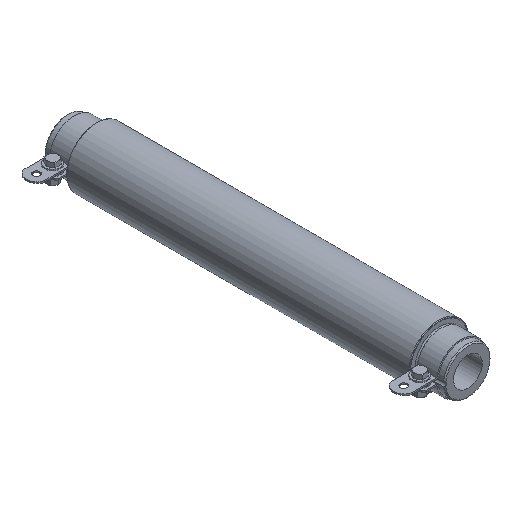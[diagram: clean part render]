
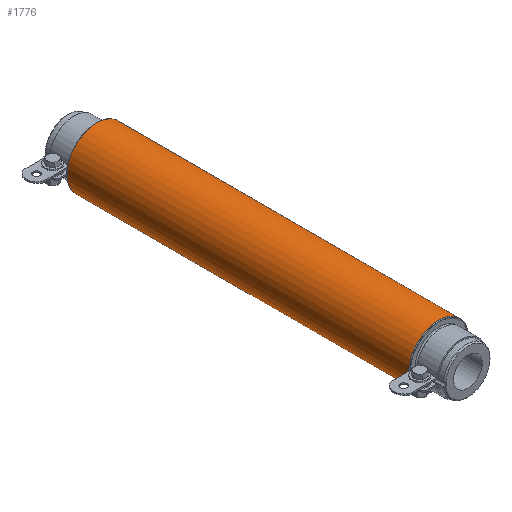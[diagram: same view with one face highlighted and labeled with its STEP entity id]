
A CAD part, isometric view. The second image highlights one B-rep face of the part: STEP entity #1776.
In plain terms, the highlighted cylindrical face has radius 27 mm (diameter 54 mm), a full revolution.
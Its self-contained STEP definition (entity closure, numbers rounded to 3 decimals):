
#697=ORIENTED_EDGE('',*,*,#887,.T.);
#698=ORIENTED_EDGE('',*,*,#888,.T.);
#887=EDGE_CURVE('',#1012,#1012,#1087,.F.);
#888=EDGE_CURVE('',#1013,#1013,#1088,.T.);
#1012=VERTEX_POINT('',#2949);
#1013=VERTEX_POINT('',#2951);
#1087=CIRCLE('',#1974,27.);
#1088=CIRCLE('',#1975,27.);
#1200=EDGE_LOOP('',(#697));
#1201=EDGE_LOOP('',(#698));
#1319=FACE_BOUND('',#1200,.T.);
#1320=FACE_BOUND('',#1201,.T.);
#1352=CYLINDRICAL_SURFACE('',#1973,27.);
#1776=ADVANCED_FACE('',(#1319,#1320),#1352,.T.);
#1973=AXIS2_PLACEMENT_3D('',#2947,#2383,#2384);
#1974=AXIS2_PLACEMENT_3D('',#2948,#2385,#2386);
#1975=AXIS2_PLACEMENT_3D('',#2950,#2387,#2388);
#2383=DIRECTION('',(0.,0.,-1.));
#2384=DIRECTION('',(-1.,0.,0.));
#2385=DIRECTION('',(0.,0.,-1.));
#2386=DIRECTION('',(-1.,0.,0.));
#2387=DIRECTION('',(0.,0.,-1.));
#2388=DIRECTION('',(-1.,0.,0.));
#2947=CARTESIAN_POINT('',(0.,0.,155.));
#2948=CARTESIAN_POINT('',(0.,0.,-154.5));
#2949=CARTESIAN_POINT('',(-27.,0.,-154.5));
#2950=CARTESIAN_POINT('',(0.,0.,154.5));
#2951=CARTESIAN_POINT('',(-27.,0.,154.5));
